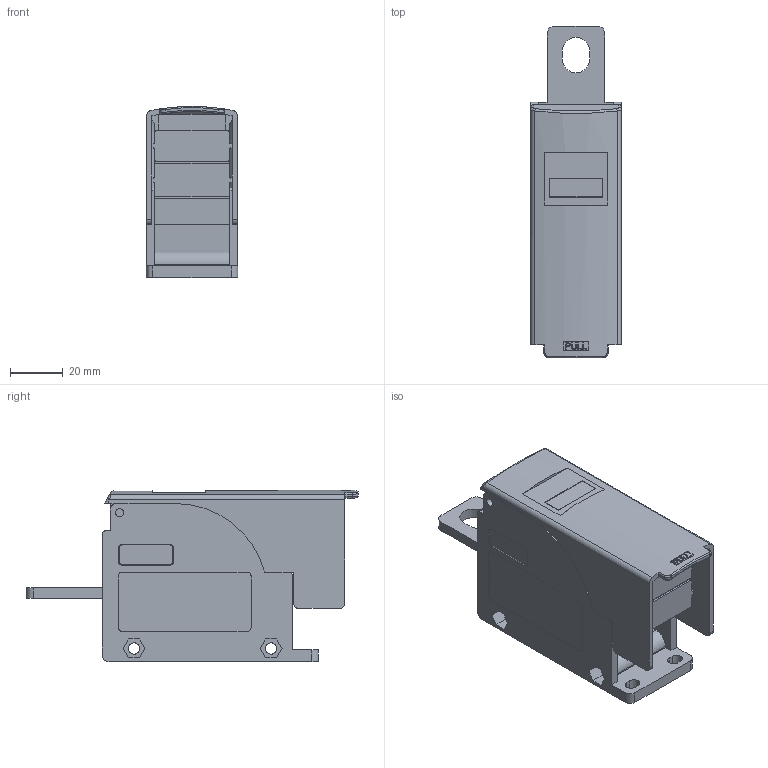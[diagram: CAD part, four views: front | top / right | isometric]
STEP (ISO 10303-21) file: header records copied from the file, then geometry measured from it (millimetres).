
FILE_DESCRIPTION(/* description */ (''),/* implementation_level */ '2;1');
FILE_NAME(/* name */ 'SPD35L-S.stp',/* time_stamp */ '2019-11-04T15:07:12+09:00',/* author */ (''),/* organization */ (''),/* preprocessor_version */ 'ST-DEVELOPER v16.7',/* originating_system */ 'SIEMENS PLM Software NX 12.0',/* authorisation */ '');
FILE_SCHEMA (('AP203_CONFIGURATION_CONTROLLED_3D_DESIGN_OF_MECHANICAL_PARTS_AND_ASSEMBLIES_MIM_LF { 1 0 10303 403 2 1 2}'));
Length unit declared in the file: millimetre
Products named in the file (1): kimE9E090E5f894
Bounding box: 34.8 x 126 x 64.99 mm (x, y, z)
Volume: 100187.1 mm3; surface area: 36567.6 mm2
Topology: 1 solids, 1 shells, 274 faces, 761 edges, 501 vertices
Faces by surface type: plane 180, cylinder 73, bspline 7, cone 6, extrusion 6, torus 2
Full cylindrical faces by diameter (mm): 3.1 x2, 4.3 x2
Entity records: 9536 total; most frequent: CARTESIAN_POINT 2167, ORIENTED_EDGE 1512, DIRECTION 1427, EDGE_CURVE 756, VECTOR 551, LINE 545, VERTEX_POINT 500, AXIS2_PLACEMENT_3D 438
